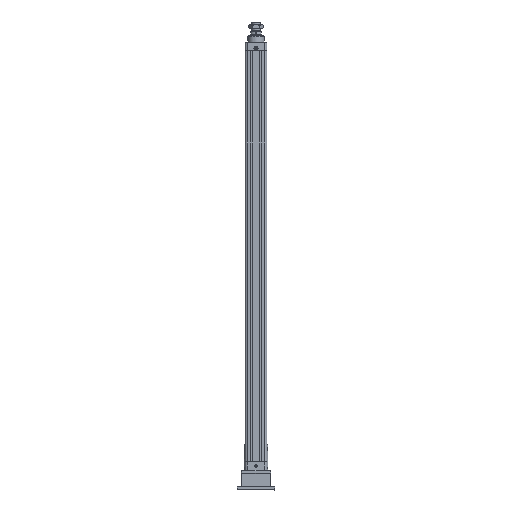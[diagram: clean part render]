
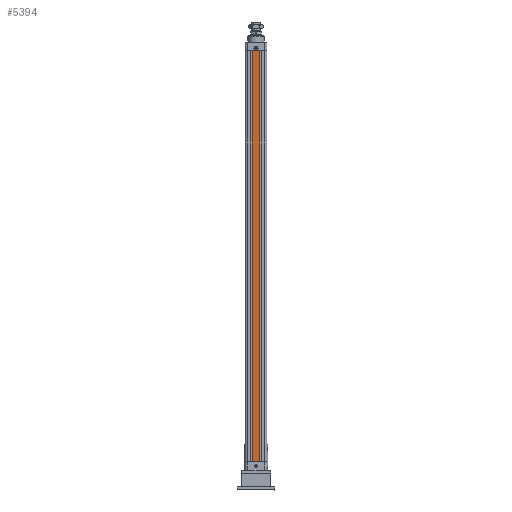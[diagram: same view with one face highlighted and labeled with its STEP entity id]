
A CAD part, top view. The second image highlights one B-rep face of the part: STEP entity #5394.
In plain terms, the highlighted planar face has unit normal (0, 0, 1).
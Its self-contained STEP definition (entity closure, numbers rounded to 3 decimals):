
#3073=DIRECTION('',(1.,0.,0.));
#3074=VECTOR('',#3073,25.8);
#3075=CARTESIAN_POINT('',(-12.9,-705.5,37.5));
#3076=LINE('',#3075,#3074);
#3453=DIRECTION('',(0.,1.,0.));
#3454=VECTOR('',#3453,1411.);
#3455=CARTESIAN_POINT('',(-12.9,-705.5,37.5));
#3456=LINE('',#3455,#3454);
#3457=DIRECTION('',(0.,1.,0.));
#3458=VECTOR('',#3457,1411.);
#3459=CARTESIAN_POINT('',(12.9,-705.5,37.5));
#3460=LINE('',#3459,#3458);
#3813=DIRECTION('',(1.,0.,0.));
#3814=VECTOR('',#3813,25.8);
#3815=CARTESIAN_POINT('',(-12.9,705.5,37.5));
#3816=LINE('',#3815,#3814);
#4997=CARTESIAN_POINT('',(-12.9,-705.5,37.5));
#4999=VERTEX_POINT('',#4997);
#5025=CARTESIAN_POINT('',(12.9,-705.5,37.5));
#5026=VERTEX_POINT('',#5025);
#5053=CARTESIAN_POINT('',(-12.9,705.5,37.5));
#5055=VERTEX_POINT('',#5053);
#5081=CARTESIAN_POINT('',(12.9,705.5,37.5));
#5082=VERTEX_POINT('',#5081);
#5380=CARTESIAN_POINT('',(-37.5,-705.5,37.5));
#5381=DIRECTION('',(0.,0.,1.));
#5382=DIRECTION('',(1.,0.,0.));
#5383=AXIS2_PLACEMENT_3D('',#5380,#5381,#5382);
#5384=PLANE('',#5383);
#5386=ORIENTED_EDGE('',*,*,#5385,.T.);
#5388=ORIENTED_EDGE('',*,*,#5387,.T.);
#5390=ORIENTED_EDGE('',*,*,#5389,.F.);
#5391=ORIENTED_EDGE('',*,*,#5132,.F.);
#5392=EDGE_LOOP('',(#5386,#5388,#5390,#5391));
#5393=FACE_OUTER_BOUND('',#5392,.F.);
#5394=ADVANCED_FACE('',(#5393),#5384,.T.);
#5132=EDGE_CURVE('',#4999,#5026,#3076,.T.);
#5385=EDGE_CURVE('',#4999,#5055,#3456,.T.);
#5387=EDGE_CURVE('',#5055,#5082,#3816,.T.);
#5389=EDGE_CURVE('',#5026,#5082,#3460,.T.);
